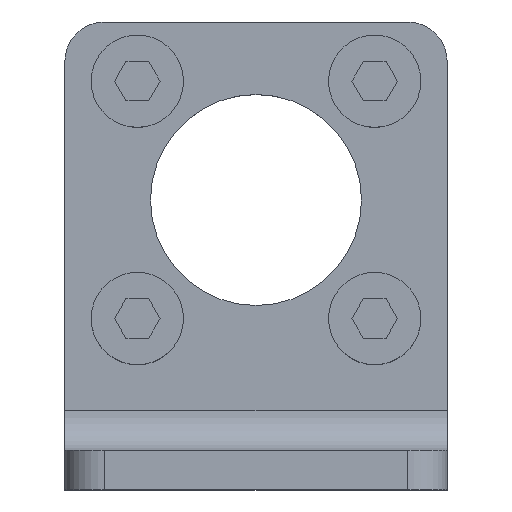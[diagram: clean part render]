
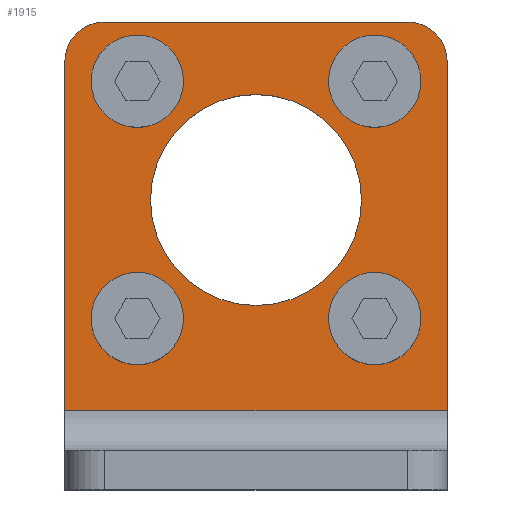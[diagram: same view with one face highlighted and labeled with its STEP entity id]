
A CAD part, top view. The second image highlights one B-rep face of the part: STEP entity #1915.
In plain terms, the highlighted planar face has unit normal (0, 0, 1).
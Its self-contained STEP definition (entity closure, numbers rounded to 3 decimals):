
#24=DIRECTION('',(0.,-1.,0.));
#25=VECTOR('',#24,26.5);
#26=CARTESIAN_POINT('',(-14.5,10.5,3.));
#27=LINE('',#26,#25);
#177=CARTESIAN_POINT('',(0.,0.,3.));
#178=DIRECTION('',(0.,0.,-1.));
#179=DIRECTION('',(1.,0.,0.));
#180=AXIS2_PLACEMENT_3D('',#177,#178,#179);
#185=CARTESIAN_POINT('',(0.,0.,3.));
#186=DIRECTION('',(0.,0.,-1.));
#187=DIRECTION('',(-1.,0.,0.));
#188=AXIS2_PLACEMENT_3D('',#185,#186,#187);
#193=CARTESIAN_POINT('',(9.,-9.,3.));
#194=DIRECTION('',(0.,0.,1.));
#195=DIRECTION('',(-1.,0.,0.));
#196=AXIS2_PLACEMENT_3D('',#193,#194,#195);
#201=CARTESIAN_POINT('',(9.,-9.,3.));
#202=DIRECTION('',(0.,0.,1.));
#203=DIRECTION('',(1.,0.,0.));
#204=AXIS2_PLACEMENT_3D('',#201,#202,#203);
#209=CARTESIAN_POINT('',(-9.,-9.,3.));
#210=DIRECTION('',(0.,0.,-1.));
#211=DIRECTION('',(0.,-1.,0.));
#212=AXIS2_PLACEMENT_3D('',#209,#210,#211);
#217=CARTESIAN_POINT('',(-9.,-9.,3.));
#218=DIRECTION('',(0.,0.,-1.));
#219=DIRECTION('',(0.,1.,0.));
#220=AXIS2_PLACEMENT_3D('',#217,#218,#219);
#225=CARTESIAN_POINT('',(11.5,10.5,3.));
#226=DIRECTION('',(0.,0.,1.));
#227=DIRECTION('',(1.,0.,0.));
#228=AXIS2_PLACEMENT_3D('',#225,#226,#227);
#233=DIRECTION('',(1.,0.,0.));
#234=VECTOR('',#233,29.);
#235=CARTESIAN_POINT('',(-14.5,-16.,3.));
#236=LINE('',#235,#234);
#240=CARTESIAN_POINT('',(-11.5,10.5,3.));
#241=DIRECTION('',(0.,0.,1.));
#242=DIRECTION('',(0.,1.,0.));
#243=AXIS2_PLACEMENT_3D('',#240,#241,#242);
#248=DIRECTION('',(1.,0.,0.));
#249=VECTOR('',#248,23.);
#250=CARTESIAN_POINT('',(-11.5,13.5,3.));
#251=LINE('',#250,#249);
#255=CARTESIAN_POINT('',(9.,9.,3.));
#256=DIRECTION('',(0.,0.,-1.));
#257=DIRECTION('',(-1.,0.,0.));
#258=AXIS2_PLACEMENT_3D('',#255,#256,#257);
#263=CARTESIAN_POINT('',(9.,9.,3.));
#264=DIRECTION('',(0.,0.,-1.));
#265=DIRECTION('',(1.,0.,0.));
#266=AXIS2_PLACEMENT_3D('',#263,#264,#265);
#271=CARTESIAN_POINT('',(-9.,9.,3.));
#272=DIRECTION('',(0.,0.,1.));
#273=DIRECTION('',(0.,1.,0.));
#274=AXIS2_PLACEMENT_3D('',#271,#272,#273);
#279=CARTESIAN_POINT('',(-9.,9.,3.));
#280=DIRECTION('',(0.,0.,1.));
#281=DIRECTION('',(0.,-1.,0.));
#282=AXIS2_PLACEMENT_3D('',#279,#280,#281);
#670=DIRECTION('',(0.,-1.,0.));
#671=VECTOR('',#670,26.5);
#672=CARTESIAN_POINT('',(14.5,10.5,3.));
#673=LINE('',#672,#671);
#1527=CARTESIAN_POINT('',(8.,0.,3.));
#1528=CARTESIAN_POINT('',(-8.,0.,3.));
#1529=VERTEX_POINT('',#1527);
#1530=VERTEX_POINT('',#1528);
#1539=CARTESIAN_POINT('',(-14.5,-16.,3.));
#1540=CARTESIAN_POINT('',(14.5,-16.,3.));
#1541=VERTEX_POINT('',#1539);
#1542=VERTEX_POINT('',#1540);
#1563=CARTESIAN_POINT('',(5.5,-9.,3.));
#1564=CARTESIAN_POINT('',(12.5,-9.,3.));
#1565=VERTEX_POINT('',#1563);
#1566=VERTEX_POINT('',#1564);
#1579=CARTESIAN_POINT('',(-9.,-12.5,3.));
#1580=CARTESIAN_POINT('',(-9.,-5.5,3.));
#1581=VERTEX_POINT('',#1579);
#1582=VERTEX_POINT('',#1580);
#1607=CARTESIAN_POINT('',(14.5,10.5,3.));
#1608=CARTESIAN_POINT('',(11.5,13.5,3.));
#1609=VERTEX_POINT('',#1607);
#1610=VERTEX_POINT('',#1608);
#1619=CARTESIAN_POINT('',(-11.5,13.5,3.));
#1620=VERTEX_POINT('',#1619);
#1621=CARTESIAN_POINT('',(-14.5,10.5,3.));
#1622=VERTEX_POINT('',#1621);
#1675=CARTESIAN_POINT('',(5.5,9.,3.));
#1676=VERTEX_POINT('',#1675);
#1677=CARTESIAN_POINT('',(12.5,9.,3.));
#1678=VERTEX_POINT('',#1677);
#1691=CARTESIAN_POINT('',(-9.,12.5,3.));
#1692=VERTEX_POINT('',#1691);
#1693=CARTESIAN_POINT('',(-9.,5.5,3.));
#1694=VERTEX_POINT('',#1693);
#1869=CARTESIAN_POINT('',(-14.5,13.5,3.));
#1870=DIRECTION('',(0.,0.,1.));
#1871=DIRECTION('',(0.,-1.,0.));
#1872=AXIS2_PLACEMENT_3D('',#1869,#1870,#1871);
#1873=PLANE('',#1872);
#1875=ORIENTED_EDGE('',*,*,#1874,.F.);
#1877=ORIENTED_EDGE('',*,*,#1876,.T.);
#1879=ORIENTED_EDGE('',*,*,#1878,.F.);
#1880=ORIENTED_EDGE('',*,*,#1774,.F.);
#1881=ORIENTED_EDGE('',*,*,#1800,.F.);
#1883=ORIENTED_EDGE('',*,*,#1882,.T.);
#1884=EDGE_LOOP('',(#1875,#1877,#1879,#1880,#1881,#1883));
#1885=FACE_OUTER_BOUND('',#1884,.F.);
#1887=ORIENTED_EDGE('',*,*,#1886,.T.);
#1889=ORIENTED_EDGE('',*,*,#1888,.T.);
#1890=EDGE_LOOP('',(#1887,#1889));
#1891=FACE_BOUND('',#1890,.F.);
#1893=ORIENTED_EDGE('',*,*,#1892,.F.);
#1895=ORIENTED_EDGE('',*,*,#1894,.F.);
#1896=EDGE_LOOP('',(#1893,#1895));
#1897=FACE_BOUND('',#1896,.F.);
#1898=ORIENTED_EDGE('',*,*,#1859,.F.);
#1900=ORIENTED_EDGE('',*,*,#1899,.F.);
#1901=EDGE_LOOP('',(#1898,#1900));
#1902=FACE_BOUND('',#1901,.F.);
#1904=ORIENTED_EDGE('',*,*,#1903,.F.);
#1906=ORIENTED_EDGE('',*,*,#1905,.F.);
#1907=EDGE_LOOP('',(#1904,#1906));
#1908=FACE_BOUND('',#1907,.F.);
#1910=ORIENTED_EDGE('',*,*,#1909,.T.);
#1912=ORIENTED_EDGE('',*,*,#1911,.T.);
#1913=EDGE_LOOP('',(#1910,#1912));
#1914=FACE_BOUND('',#1913,.F.);
#1915=ADVANCED_FACE('',(#1885,#1891,#1897,#1902,#1908,#1914),#1873,.T.);
#181=CIRCLE('',#180,8.);
#189=CIRCLE('',#188,8.);
#197=CIRCLE('',#196,3.5);
#205=CIRCLE('',#204,3.5);
#213=CIRCLE('',#212,3.5);
#221=CIRCLE('',#220,3.5);
#229=CIRCLE('',#228,3.);
#244=CIRCLE('',#243,3.);
#259=CIRCLE('',#258,3.5);
#267=CIRCLE('',#266,3.5);
#275=CIRCLE('',#274,3.5);
#283=CIRCLE('',#282,3.5);
#1774=EDGE_CURVE('',#1622,#1541,#27,.T.);
#1800=EDGE_CURVE('',#1620,#1622,#244,.T.);
#1859=EDGE_CURVE('',#1529,#1530,#181,.T.);
#1874=EDGE_CURVE('',#1609,#1610,#229,.T.);
#1876=EDGE_CURVE('',#1609,#1542,#673,.T.);
#1878=EDGE_CURVE('',#1541,#1542,#236,.T.);
#1882=EDGE_CURVE('',#1620,#1610,#251,.T.);
#1886=EDGE_CURVE('',#1565,#1566,#197,.T.);
#1888=EDGE_CURVE('',#1566,#1565,#205,.T.);
#1892=EDGE_CURVE('',#1581,#1582,#213,.T.);
#1894=EDGE_CURVE('',#1582,#1581,#221,.T.);
#1899=EDGE_CURVE('',#1530,#1529,#189,.T.);
#1903=EDGE_CURVE('',#1676,#1678,#259,.T.);
#1905=EDGE_CURVE('',#1678,#1676,#267,.T.);
#1909=EDGE_CURVE('',#1692,#1694,#275,.T.);
#1911=EDGE_CURVE('',#1694,#1692,#283,.T.);
